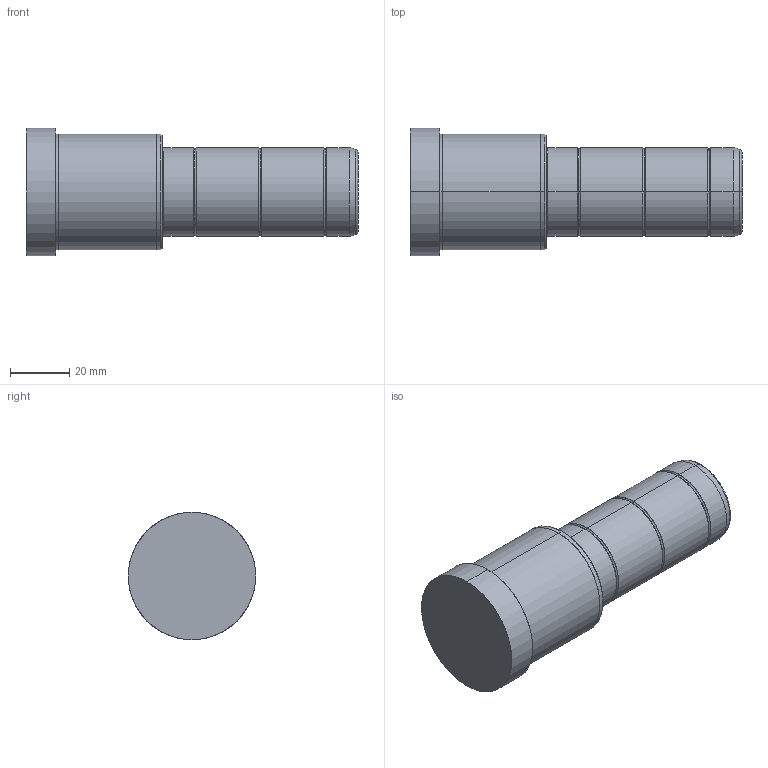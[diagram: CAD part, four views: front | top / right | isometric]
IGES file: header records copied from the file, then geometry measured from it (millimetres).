
Start section: SolidWorks IGES file using analytic representation for surfaces
Global section: file name: C:\Documents and Settings\kalite-mail\Desktop\IGS\D02\30\D02 - 30x46x66.IGS; native system: SolidWorks 2008; preprocessor: SolidWorks 2008; author: kalite-mail; date: 080617.090647; units: millimetre
Bounding box: 112 x 43 x 43 mm (x, y, z)
Surface area: 14894.6 mm2 (no closed solid volume)
Topology: 0 solids, 0 shells, 42 faces, 752 edges, 752 vertices
Faces by surface type: bspline 22, revolution 20
